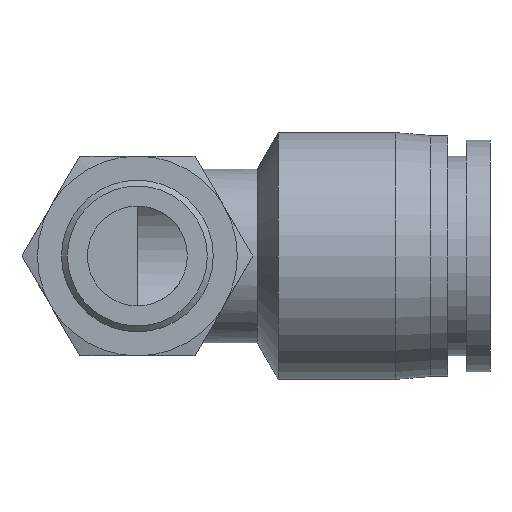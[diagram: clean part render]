
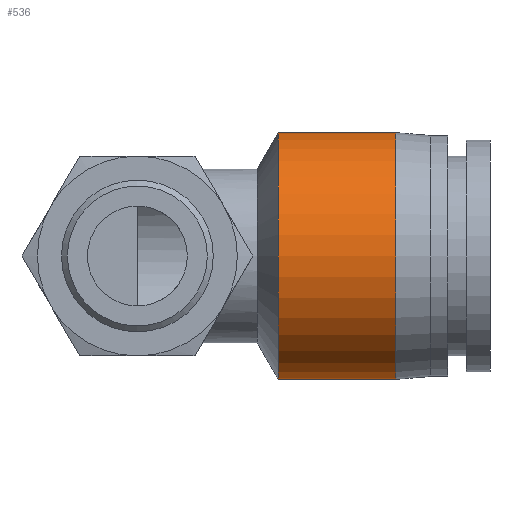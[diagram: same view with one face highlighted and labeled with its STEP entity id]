
A CAD part, front view. The second image highlights one B-rep face of the part: STEP entity #536.
In plain terms, the highlighted cylindrical face has radius 10.5 mm (diameter 21 mm), a full revolution.
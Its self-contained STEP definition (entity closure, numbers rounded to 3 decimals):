
#76=FACE_BOUND($,#178,.T.);
#93=CYLINDRICAL_SURFACE($,#605,10.5);
#128=FACE_OUTER_BOUND($,#177,.T.);
#177=EDGE_LOOP($,(#474));
#178=EDGE_LOOP($,(#475));
#217=CIRCLE($,#604,10.5);
#218=CIRCLE($,#606,10.5);
#281=VERTEX_POINT($,#972);
#282=VERTEX_POINT($,#975);
#348=EDGE_CURVE($,#281,#281,#217,.T.);
#349=EDGE_CURVE($,#282,#282,#218,.T.);
#474=ORIENTED_EDGE($,*,*,#349,.F.);
#475=ORIENTED_EDGE($,*,*,#348,.T.);
#536=ADVANCED_FACE($,(#128,#76),#93,.T.);
#604=AXIS2_PLACEMENT_3D($,#973,#745,#746);
#605=AXIS2_PLACEMENT_3D($,#974,#747,#748);
#606=AXIS2_PLACEMENT_3D($,#976,#749,#750);
#745=DIRECTION('center_axis',(1.,0.,0.));
#746=DIRECTION('ref_axis',(0.,1.,0.));
#747=DIRECTION('center_axis',(1.,0.,0.));
#748=DIRECTION('ref_axis',(0.,1.,0.));
#749=DIRECTION('center_axis',(1.,0.,0.));
#750=DIRECTION('ref_axis',(0.,1.,0.));
#972=CARTESIAN_POINT('',(12.,10.5,0.));
#973=CARTESIAN_POINT('Origin',(12.,0.,0.));
#974=CARTESIAN_POINT('Origin',(17.,0.,0.));
#975=CARTESIAN_POINT('',(22.,10.5,0.));
#976=CARTESIAN_POINT('Origin',(22.,0.,0.));
